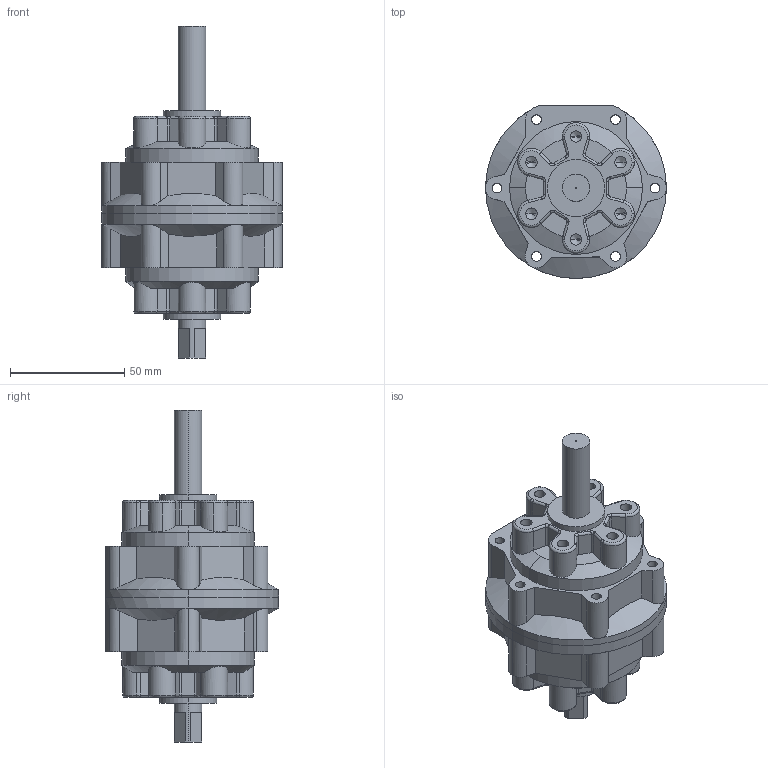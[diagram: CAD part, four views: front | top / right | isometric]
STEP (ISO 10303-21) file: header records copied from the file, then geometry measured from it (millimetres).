
FILE_DESCRIPTION (( 'STEP AP203' ), '1' );
FILE_NAME ('PRN50.STEP', '2016-01-14T16:39:10', ( '' ), ( '' ), 'SwSTEP 2.0', 'SolidWorks 2014', '' );
FILE_SCHEMA (( 'CONFIG_CONTROL_DESIGN' ));
Length unit declared in the file: millimetre
Products named in the file (5): PRN50 (3); PRN50 (2); mark-PRN50; PRN50 (1); PRN50
Assembly tree (4 placements, depth 2):
  PRN50
    PRN50 (1)
    PRN50 (2)
    PRN50 (3)
    mark-PRN50
Bounding box: 79 x 75.59 x 145 mm (x, y, z)
Volume: 245461.9 mm3; surface area: 60126.8 mm2
Topology: 10 solids, 10 shells, 497 faces, 1275 edges, 793 vertices
Faces by surface type: cylinder 214, plane 175, torus 53, cone 47, bspline 8
Entity records: 16435 total; most frequent: CARTESIAN_POINT 3722, DIRECTION 2657, ORIENTED_EDGE 2494, EDGE_CURVE 1247, AXIS2_PLACEMENT_3D 1019, VERTEX_POINT 793, LINE 619, VECTOR 619
